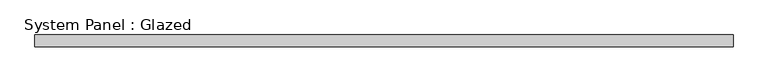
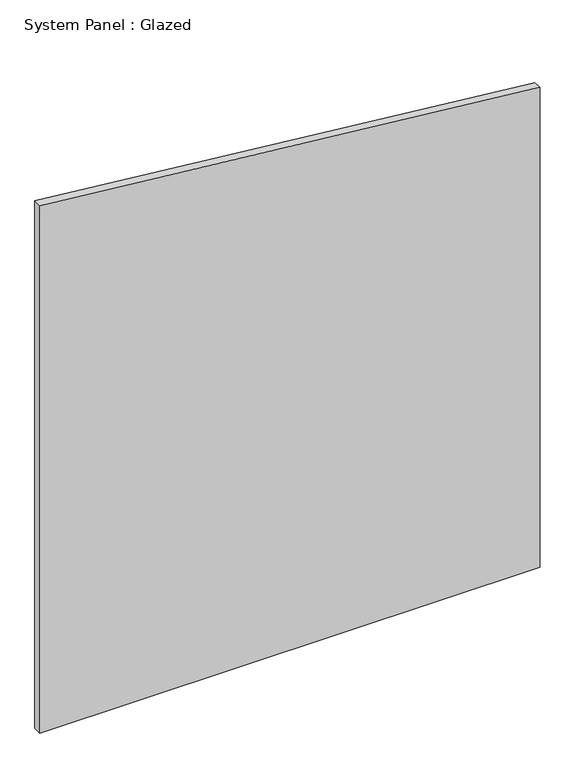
"""IFC4 building model written with IfcOpenShell, lengths in millimetres: plate geometry, System Panel : Glazed."""

from ifc_helpers import new_model, si_unit, frame, origin, place, context, project, spatial, polyline, outline, extrude, source, transform, mapped, element, save


def system_panel_glazed_0e9d21b2(model_context):
    return source(origin(), model_context, "Body", "SweptSolid", [
        extrude(outline(polyline([(0.0, -735.8695652), (0.0, 735.8695652), (1492.31395, 735.8695652), (1640.2969288, -735.8695652), (0.0, -735.8695652)])), frame((0.0, 24.5, 0.0), z_axis=(0.0, 1.0, 0.0), x_axis=(0.0, 0.0, 1.0)), (0.0, 0.0, 1.0), 25.0),
    ])


if __name__ == "__main__":
    model = new_model("IFC4")
    model_context = context("Model", 3, world=origin())
    ifc_project = project(units=[si_unit("LENGTHUNIT", "METRE", prefix="MILLI")], contexts=[model_context])
    site = spatial("IfcSite", under=ifc_project)
    building = spatial("IfcBuilding", under=site)
    placement = place(None, origin())
    system_panel_glazed_shape = system_panel_glazed_0e9d21b2(model_context)
    element("IfcPlate", 1, ObjectType="System Panel : Glazed", at=placement, inside=building, context=model_context, shape_type="MappedRepresentation", body=[
        mapped(system_panel_glazed_shape, transform((0.0, 0.0, 0.0), x_axis=(1.0, 0.0, 0.0), y_axis=(0.0, 1.0, 0.0), z_axis=(0.0, 0.0, 1.0))),
    ])
    save(model, "model.ifc")
